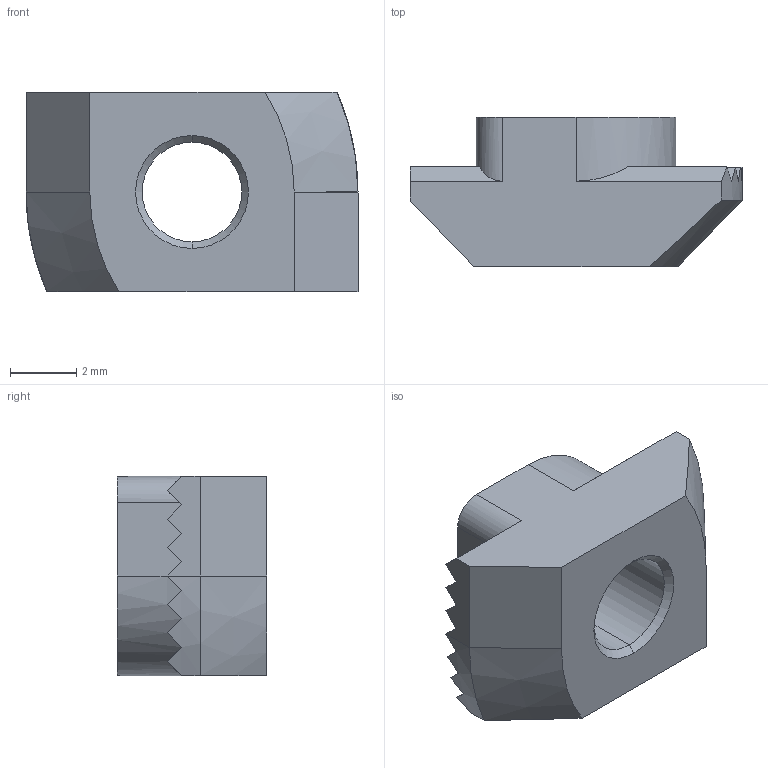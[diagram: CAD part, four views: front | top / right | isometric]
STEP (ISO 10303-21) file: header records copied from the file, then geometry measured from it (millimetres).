
FILE_DESCRIPTION (( 'STEP AP214' ), '1' );
FILE_NAME ('Drop In Nut - T-V-Slot - 20 Series - M3.STEP', '2024-09-29T22:09:12', ( '' ), ( '' ), 'SwSTEP 2.0', 'SolidWorks 2024', '' );
FILE_SCHEMA (( 'AUTOMOTIVE_DESIGN' ));
Length unit declared in the file: millimetre
Products named in the file (1): Drop In Nut - T-V-Slot - 20 Series - M3
Bounding box: 10 x 4.5 x 6 mm (x, y, z)
Volume: 162.6 mm3; surface area: 251.7 mm2
Topology: 1 solids, 1 shells, 54 faces, 144 edges, 92 vertices
Faces by surface type: plane 40, cylinder 8, cone 6
Entity records: 1678 total; most frequent: CARTESIAN_POINT 393, ORIENTED_EDGE 288, DIRECTION 237, EDGE_CURVE 144, VECTOR 93, LINE 93, VERTEX_POINT 92, AXIS2_PLACEMENT_3D 72
